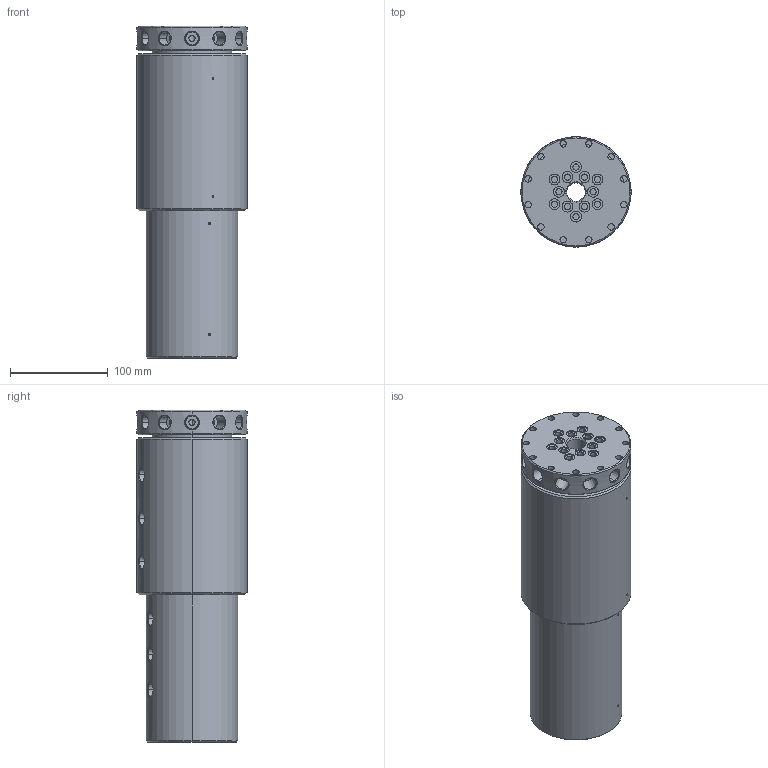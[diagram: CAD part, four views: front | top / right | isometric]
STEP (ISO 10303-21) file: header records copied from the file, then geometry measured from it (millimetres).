
FILE_DESCRIPTION (( 'STEP AP214' ), '1' );
FILE_NAME ('GP(M)-210-12.STEP', '2013-02-05T22:15:11', ( '' ), ( '' ), 'SwSTEP 2.0', 'SolidWorks 2011', '' );
FILE_SCHEMA (( 'AUTOMOTIVE_DESIGN' ));
Length unit declared in the file: inch
Products named in the file (1): GP(M)-210-12
Bounding box: 112.7 x 112.7 x 339.8 mm (x, y, z)
Volume: 2701725.8 mm3; surface area: 194025 mm2
Topology: 1 solids, 1 shells, 424 faces, 1062 edges, 661 vertices
Faces by surface type: cylinder 189, cone 114, plane 71, bspline 48, torus 2
Entity records: 16659 total; most frequent: CARTESIAN_POINT 6570, ORIENTED_EDGE 2024, DIRECTION 1918, EDGE_CURVE 1012, AXIS2_PLACEMENT_3D 793, VERTEX_POINT 661, EDGE_LOOP 545, FACE_OUTER_BOUND 424
